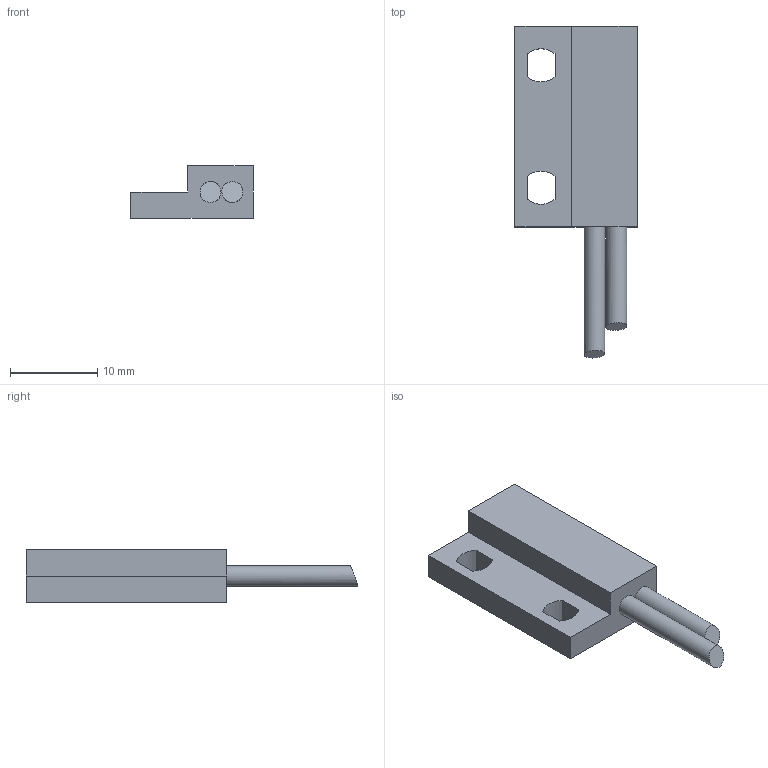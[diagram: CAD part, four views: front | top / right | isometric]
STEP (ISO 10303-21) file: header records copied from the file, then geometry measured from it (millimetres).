
FILE_DESCRIPTION((''),'2;1');
FILE_NAME('C:\Vault_local\Designs\Stock\3D pour clients\préparations\2D3D 502 A.stp','2009-08-05T11:23:16',('Georges THOLLOT ','Responsable ','Mthodes et Industrialisation',' Tl : +33 (0)4 77 53 90 27','gthollot@celduc.com'),('Celduc r e l a i s','5, rue Ampre, BP 30004','42290 SORBIERS - France','Fax. : +33 (0)4 77 53 85 51','N siret 353 310 519 00015','ISO 9001 N QUAL/1993/1106b','www.celduc.com'),'Autodesk Inventor 2009','Autodesk Inventor 2009','');
FILE_SCHEMA(('AUTOMOTIVE_DESIGN { 1 0 10303 214 1 1 1 1 }'));
Length unit declared in the file: millimetre
Products named in the file (1): PAA
Bounding box: 14 x 38 x 6 mm (x, y, z)
Volume: 1503.7 mm3; surface area: 1301.2 mm2
Topology: 1 solids, 1 shells, 25 faces, 62 edges, 42 vertices
Faces by surface type: plane 19, cylinder 6
Full cylindrical faces by diameter (mm): 2.4 x2
Entity records: 780 total; most frequent: CARTESIAN_POINT 124, DIRECTION 122, ORIENTED_EDGE 116, EDGE_CURVE 58, VECTOR 46, LINE 46, VERTEX_POINT 40, AXIS2_PLACEMENT_3D 38
